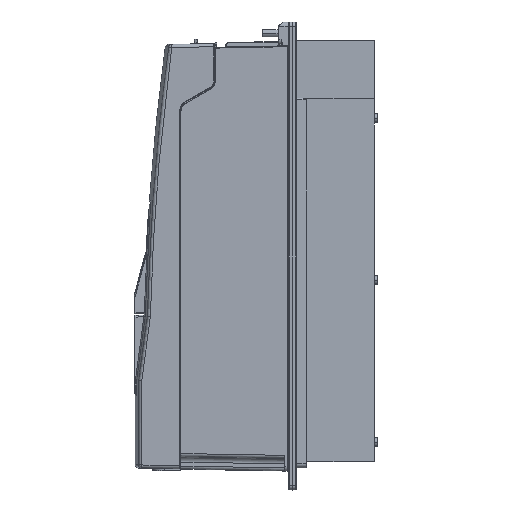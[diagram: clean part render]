
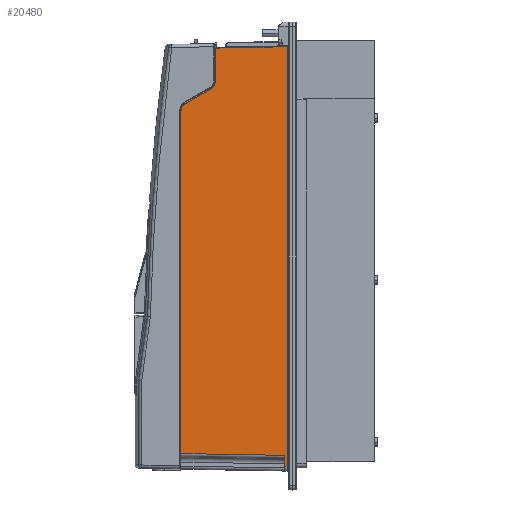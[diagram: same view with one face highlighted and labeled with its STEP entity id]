
A CAD part, left-side view. The second image highlights one B-rep face of the part: STEP entity #20480.
In plain terms, the highlighted planar face has unit normal (-1, 0.018, 0) as drawn and (1, 0.018, 0) by its records, which use the part's own axes.
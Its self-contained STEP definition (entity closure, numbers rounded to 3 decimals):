
#539 = VERTEX_POINT ( 'NONE', #26535 ) ;
#958 = EDGE_CURVE ( 'NONE', #42742, #95864, #2678, .T. ) ;
#1225 = EDGE_CURVE ( 'NONE', #14737, #55196, #26800, .T. ) ;
#2678 = LINE ( 'NONE', #58589, #5121 ) ;
#3393 = CARTESIAN_POINT ( 'NONE',  ( 123.214, 4.804, 455.156 ) ) ;
#3416 = EDGE_CURVE ( 'NONE', #62819, #101745, #26394, .T. ) ;
#3453 = ORIENTED_EDGE ( 'NONE', *, *, #49236, .T. ) ;
#4436 = CARTESIAN_POINT ( 'NONE',  ( 123.213, 4.86, 454.589 ) ) ;
#4972 = LINE ( 'NONE', #69321, #37920 ) ;
#5121 = VECTOR ( 'NONE', #50660, 1000. ) ;
#5529 = FACE_OUTER_BOUND ( 'NONE', #88695, .T. ) ;
#6004 = EDGE_CURVE ( 'NONE', #95864, #28641, #77844, .T. ) ;
#6052 = CARTESIAN_POINT ( 'NONE',  ( 121.15, 120., 471. ) ) ;
#8293 = LINE ( 'NONE', #48910, #92760 ) ;
#10434 = CARTESIAN_POINT ( 'NONE',  ( 123.212, 4.939, 453.502 ) ) ;
#11865 = VECTOR ( 'NONE', #26352, 1000. ) ;
#12342 = CARTESIAN_POINT ( 'NONE',  ( 123.207, 5.196, 453.497 ) ) ;
#14737 = VERTEX_POINT ( 'NONE', #15067 ) ;
#15067 = CARTESIAN_POINT ( 'NONE',  ( 121.154, 119.804, 451.497 ) ) ;
#16333 = LINE ( 'NONE', #98658, #11865 ) ;
#17708 = LINE ( 'NONE', #19285, #75565 ) ;
#19285 = CARTESIAN_POINT ( 'NONE',  ( 121.154, 119.804, 471. ) ) ;
#20480 = ADVANCED_FACE ( 'NONE', ( #5529 ), #30302, .F. ) ;
#20913 = ORIENTED_EDGE ( 'NONE', *, *, #72350, .T. ) ;
#21294 = EDGE_CURVE ( 'NONE', #34024, #94247, #4972, .T. ) ;
#22727 = DIRECTION ( 'NONE',  ( -0.016, 0.866, 0.5 ) ) ;
#22927 = CARTESIAN_POINT ( 'NONE',  ( 121.743, 86.904, 46.56 ) ) ;
#23320 = EDGE_CURVE ( 'NONE', #62819, #34024, #44689, .T. ) ;
#23569 = CARTESIAN_POINT ( 'NONE',  ( 121.743, 86.904, 46.56 ) ) ;
#24045 = VERTEX_POINT ( 'NONE', #33861 ) ;
#25739 = VECTOR ( 'NONE', #71975, 1000. ) ;
#26352 = DIRECTION ( 'NONE',  ( -0.018, 1., 0.019 ) ) ;
#26394 =( BOUNDED_CURVE ( )  B_SPLINE_CURVE ( 3, ( #102106, #45073, #54554, #22927 ),
 .UNSPECIFIED., .F., .T. ) 
 B_SPLINE_CURVE_WITH_KNOTS ( ( 4, 4 ),
 ( 0., 1.047 ),
 .UNSPECIFIED. ) 
 CURVE ( )  GEOMETRIC_REPRESENTATION_ITEM ( )  RATIONAL_B_SPLINE_CURVE ( ( 1., 0.911, 0.911, 1. ) ) 
 REPRESENTATION_ITEM ( '' )  );
#26535 = CARTESIAN_POINT ( 'NONE',  ( 121.154, 119.804, 71.213 ) ) ;
#26800 = LINE ( 'NONE', #10434, #64067 ) ;
#27313 = CARTESIAN_POINT ( 'NONE',  ( 121.15, 120., 37.726 ) ) ;
#28641 = VERTEX_POINT ( 'NONE', #92941 ) ;
#30302 = PLANE ( 'NONE',  #101816 ) ;
#32331 = CARTESIAN_POINT ( 'NONE',  ( 121.84, 81.5, 37.726 ) ) ;
#33529 = CARTESIAN_POINT ( 'NONE',  ( 121.186, 118.01, 64.519 ) ) ;
#33861 = CARTESIAN_POINT ( 'NONE',  ( 123.214, 4.804, 455.156 ) ) ;
#34024 = VERTEX_POINT ( 'NONE', #32331 ) ;
#34171 = DIRECTION ( 'NONE',  ( 0.018, -1., 0. ) ) ;
#35180 = EDGE_CURVE ( 'NONE', #62581, #539, #41333, .T. ) ;
#36673 = DIRECTION ( 'NONE',  ( -1., -0.018, 0. ) ) ;
#37293 = VECTOR ( 'NONE', #22727, 1000. ) ;
#37920 = VECTOR ( 'NONE', #61404, 1000. ) ;
#38064 = EDGE_CURVE ( 'NONE', #539, #14737, #17708, .T. ) ;
#39555 = LINE ( 'NONE', #79669, #37293 ) ;
#40633 = ORIENTED_EDGE ( 'NONE', *, *, #23320, .F. ) ;
#40912 = EDGE_CURVE ( 'NONE', #24045, #42742, #8293, .T. ) ;
#41333 =( BOUNDED_CURVE ( )  B_SPLINE_CURVE ( 3, ( #66229, #33529, #57799, #91604 ),
 .UNSPECIFIED., .F., .T. ) 
 B_SPLINE_CURVE_WITH_KNOTS ( ( 4, 4 ),
 ( 2.094, 3.142 ),
 .UNSPECIFIED. ) 
 CURVE ( )  GEOMETRIC_REPRESENTATION_ITEM ( )  RATIONAL_B_SPLINE_CURVE ( ( 1., 0.911, 0.911, 1. ) ) 
 REPRESENTATION_ITEM ( '' )  );
#42609 = DIRECTION ( 'NONE',  ( 0.018, -1., 0.017 ) ) ;
#42742 = VERTEX_POINT ( 'NONE', #89540 ) ;
#44689 = LINE ( 'NONE', #27313, #54851 ) ;
#45073 = CARTESIAN_POINT ( 'NONE',  ( 121.834, 81.804, 41.46 ) ) ;
#46783 = ORIENTED_EDGE ( 'NONE', *, *, #38064, .T. ) ;
#48910 = CARTESIAN_POINT ( 'NONE',  ( 123.214, 4.804, 471. ) ) ;
#49236 = EDGE_CURVE ( 'NONE', #28641, #94247, #16333, .T. ) ;
#50006 = ORIENTED_EDGE ( 'NONE', *, *, #71843, .T. ) ;
#50371 = ORIENTED_EDGE ( 'NONE', *, *, #35180, .T. ) ;
#50660 = DIRECTION ( 'NONE',  ( 0.018, -1., 0.017 ) ) ;
#52434 = CARTESIAN_POINT ( 'NONE',  ( 123.21, 5.009, 454.037 ) ) ;
#54554 = CARTESIAN_POINT ( 'NONE',  ( 121.801, 83.67, 44.693 ) ) ;
#54851 = VECTOR ( 'NONE', #34171, 1000. ) ;
#55196 = VERTEX_POINT ( 'NONE', #101265 ) ;
#55562 = ORIENTED_EDGE ( 'NONE', *, *, #958, .T. ) ;
#57799 = CARTESIAN_POINT ( 'NONE',  ( 121.154, 119.804, 67.626 ) ) ;
#58589 = CARTESIAN_POINT ( 'NONE',  ( 123.275, 1.413, 466.002 ) ) ;
#58699 = ORIENTED_EDGE ( 'NONE', *, *, #1225, .T. ) ;
#61404 = DIRECTION ( 'NONE',  ( 0., 0., -1. ) ) ;
#62471 = DIRECTION ( 'NONE',  ( 0.018, -1., 0. ) ) ;
#62581 = VERTEX_POINT ( 'NONE', #70314 ) ;
#62819 = VERTEX_POINT ( 'NONE', #101879 ) ;
#64067 = VECTOR ( 'NONE', #42609, 1000. ) ;
#66229 = CARTESIAN_POINT ( 'NONE',  ( 121.241, 114.904, 62.726 ) ) ;
#66757 = DIRECTION ( 'NONE',  ( 0., 0., 1. ) ) ;
#69321 = CARTESIAN_POINT ( 'NONE',  ( 121.84, 81.5, 471. ) ) ;
#70314 = CARTESIAN_POINT ( 'NONE',  ( 121.241, 114.904, 62.726 ) ) ;
#71541 = CARTESIAN_POINT ( 'NONE',  ( 121.84, 81.5, 0.99 ) ) ;
#71843 = EDGE_CURVE ( 'NONE', #101745, #62581, #39555, .T. ) ;
#71975 = DIRECTION ( 'NONE',  ( 0., 0., -1. ) ) ;
#72350 = EDGE_CURVE ( 'NONE', #55196, #24045, #80575, .T. ) ;
#74824 = ORIENTED_EDGE ( 'NONE', *, *, #40912, .T. ) ;
#75148 = CARTESIAN_POINT ( 'NONE',  ( 123.214, 4.804, 454.869 ) ) ;
#75565 = VECTOR ( 'NONE', #66757, 1000. ) ;
#77844 = LINE ( 'NONE', #94219, #25739 ) ;
#79669 = CARTESIAN_POINT ( 'NONE',  ( 121.241, 114.901, 62.724 ) ) ;
#80575 = B_SPLINE_CURVE_WITH_KNOTS ( 'NONE', 3,
 ( #12342, #91537, #52434, #4436, #75148, #3393 ),
 .UNSPECIFIED., .F., .F.,
 ( 4, 2, 4 ),
 ( 0., 0.001, 0.002 ),
 .UNSPECIFIED. ) ;
#81116 = DIRECTION ( 'NONE',  ( 0., 0., 1. ) ) ;
#81825 = ORIENTED_EDGE ( 'NONE', *, *, #21294, .F. ) ;
#88695 = EDGE_LOOP ( 'NONE', ( #40633, #98069, #50006, #50371, #46783, #58699, #20913, #74824, #55562, #98304, #3453, #81825 ) ) ;
#89540 = CARTESIAN_POINT ( 'NONE',  ( 123.214, 4.804, 465.943 ) ) ;
#91537 = CARTESIAN_POINT ( 'NONE',  ( 123.209, 5.102, 453.767 ) ) ;
#91604 = CARTESIAN_POINT ( 'NONE',  ( 121.154, 119.804, 71.213 ) ) ;
#92760 = VECTOR ( 'NONE', #81116, 1000. ) ;
#92941 = CARTESIAN_POINT ( 'NONE',  ( 123.269, 1.704, -0.542 ) ) ;
#94219 = CARTESIAN_POINT ( 'NONE',  ( 123.269, 1.704, 471. ) ) ;
#94247 = VERTEX_POINT ( 'NONE', #71541 ) ;
#95864 = VERTEX_POINT ( 'NONE', #98531 ) ;
#98069 = ORIENTED_EDGE ( 'NONE', *, *, #3416, .T. ) ;
#98304 = ORIENTED_EDGE ( 'NONE', *, *, #6004, .T. ) ;
#98531 = CARTESIAN_POINT ( 'NONE',  ( 123.269, 1.704, 465.997 ) ) ;
#98658 = CARTESIAN_POINT ( 'NONE',  ( 120.989, 129.004, 1.902 ) ) ;
#101265 = CARTESIAN_POINT ( 'NONE',  ( 123.207, 5.196, 453.497 ) ) ;
#101745 = VERTEX_POINT ( 'NONE', #23569 ) ;
#101816 = AXIS2_PLACEMENT_3D ( 'NONE', #6052, #36673, #62471 ) ;
#101879 = CARTESIAN_POINT ( 'NONE',  ( 121.834, 81.804, 37.726 ) ) ;
#102106 = CARTESIAN_POINT ( 'NONE',  ( 121.834, 81.804, 37.726 ) ) ;
